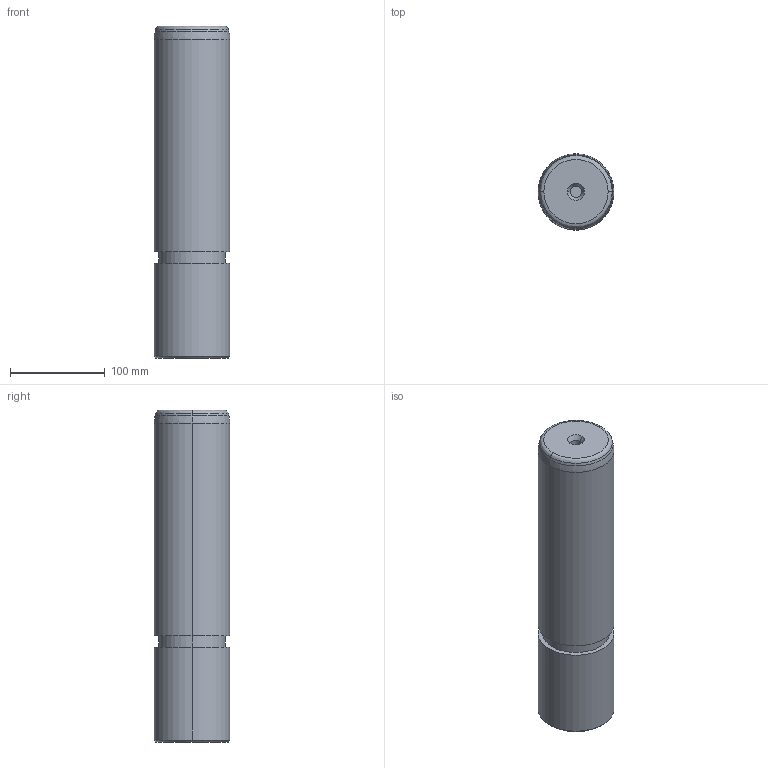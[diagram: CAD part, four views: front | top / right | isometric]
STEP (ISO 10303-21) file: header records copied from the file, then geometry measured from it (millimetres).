
FILE_DESCRIPTION((''),'2;1');
FILE_NAME('','2010-09-08T13:04:11+09:00',('misumi'),(''),'M/STEP i/f 1R2-14','CADmeister v5.1','');
FILE_SCHEMA(('AUTOMOTIVE_DESIGN'));
Length unit declared in the file: millimetre
Products named in the file (1): GPOB80-350
Bounding box: 80 x 80 x 350 mm (x, y, z)
Volume: 1736347.8 mm3; surface area: 100060.9 mm2
Topology: 1 solids, 1 shells, 23 faces, 44 edges, 26 vertices
Faces by surface type: cylinder 8, cone 6, plane 5, revolution 4
Entity records: 690 total; most frequent: DIRECTION 122, CARTESIAN_POINT 104, ORIENTED_EDGE 88, AXIS2_PLACEMENT_3D 52, EDGE_CURVE 44, CIRCLE 32, VERTEX_POINT 26, EDGE_LOOP 26
